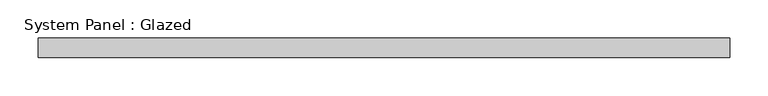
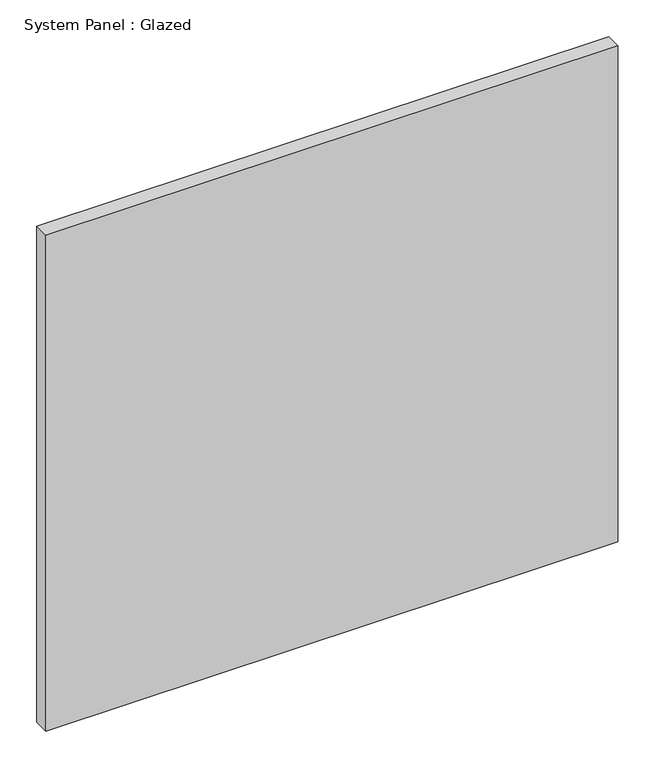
"""IFC4 building model written with IfcOpenShell, lengths in millimetres: plate geometry, System Panel : Glazed."""

from ifc_helpers import new_model, si_unit, origin, origin_with_axes, place, context, project, spatial, polyline, outline, extrude, source, transform, mapped, element, save


def system_panel_glazed_33c8cf34(model_context):
    return source(origin(), model_context, "Body", "SweptSolid", [
        extrude(outline(polyline([(450.0, 24.5), (-450.0, 24.5), (-450.0, 49.5), (450.0, 49.5), (450.0, 24.5)])), origin_with_axes(), (0.0, 0.0, 1.0), 825.0),
    ])


if __name__ == "__main__":
    model = new_model("IFC4")
    model_context = context("Model", 3, world=origin())
    ifc_project = project(units=[si_unit("LENGTHUNIT", "METRE", prefix="MILLI")], contexts=[model_context])
    site = spatial("IfcSite", under=ifc_project)
    building = spatial("IfcBuilding", under=site)
    placement = place(None, origin())
    system_panel_glazed_shape = system_panel_glazed_33c8cf34(model_context)
    element("IfcPlate", 1, ObjectType="System Panel : Glazed", at=placement, inside=building, context=model_context, shape_type="MappedRepresentation", body=[
        mapped(system_panel_glazed_shape, transform((0.0, 0.0, 0.0), x_axis=(1.0, 0.0, 0.0), y_axis=(0.0, 1.0, 0.0), z_axis=(0.0, 0.0, 1.0))),
    ])
    save(model, "model.ifc")
